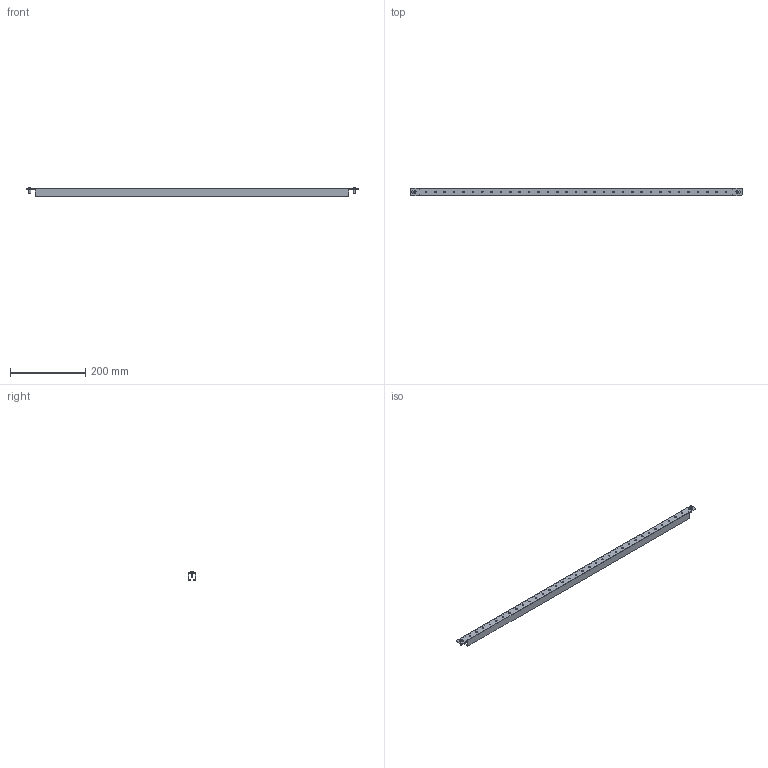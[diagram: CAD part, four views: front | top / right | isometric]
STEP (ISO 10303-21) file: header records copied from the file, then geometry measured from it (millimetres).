
FILE_DESCRIPTION(('Open CASCADE Model'),'2;1');
FILE_NAME('Open CASCADE Shape Model','2025-02-21T13:53:35',('Author'),( 'Open CASCADE'),'Open CASCADE STEP processor 7.8','Open CASCADE 7.8' ,'Unknown');
FILE_SCHEMA(('AUTOMOTIVE_DESIGN { 1 0 10303 214 1 1 1 1 }'));
Length unit declared in the file: millimetre
Products named in the file (3): Compound1; Solid1; Solid2
Assembly tree (3 placements, depth 2):
  Compound1
    Solid1
    Solid2  x2
Bounding box: 885 x 20 x 23.56 mm (x, y, z)
Volume: 82863.7 mm3; surface area: 113818.2 mm2
Topology: 3 solids, 3 shells, 119 faces, 315 edges, 204 vertices
Faces by surface type: plane 66, cylinder 41, torus 4, cone 4, sphere 2, bspline 2
Full cylindrical faces by diameter (mm): 4.2 x33, 5 x2, 9.5 x2
Entity records: 3786 total; most frequent: CARTESIAN_POINT 983, ORIENTED_EDGE 568, DIRECTION 536, EDGE_CURVE 284, AXIS2_PLACEMENT_3D 194, VERTEX_POINT 187, FACE_BOUND 175, EDGE_LOOP 175
